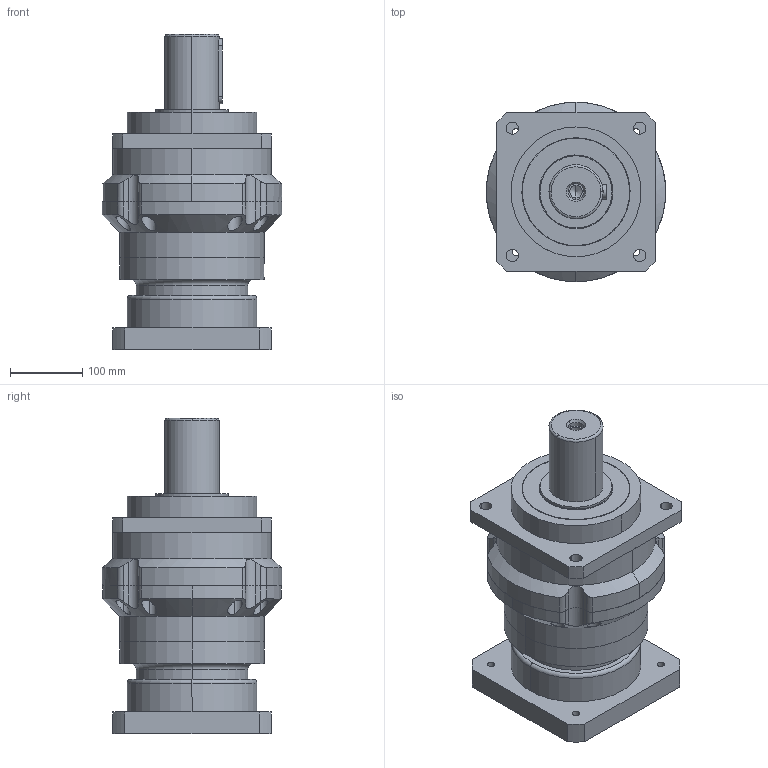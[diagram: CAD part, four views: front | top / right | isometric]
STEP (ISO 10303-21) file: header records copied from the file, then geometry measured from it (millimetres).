
FILE_DESCRIPTION (( 'STEP AP203' ), '1' );
FILE_NAME ('PLM220-L2-55-200-235.STEP', '2022-07-05T07:13:47', ( 'Windows User' ), ( 'P R C' ), 'SwSTEP 2.0', 'SolidWorks 2016', '' );
FILE_SCHEMA (( 'CONFIG_CONTROL_DESIGN' ));
Length unit declared in the file: millimetre
Products named in the file (8): TC100-150-10_TC-34.9-55-7; hexagon socket head cap screw_jis_JIS B 1176 M12 x 35 (35) --N; PLM220-L2-55-200-235; PLM220转架齿圈; PLM220二级齿圈; PLM220媼撰狟裔薊粣ん-55; PLM220梓袧; 邧埴瑩 20x12x90
Assembly tree (7 placements, depth 2):
  PLM220-L2-55-200-235
    PLM220转架齿圈
    PLM220二级齿圈
    PLM220媼撰狟裔薊粣ん-55
    PLM220梓袧
    邧埴瑩 20x12x90
    TC100-150-10_TC-34.9-55-7
    hexagon socket head cap screw_jis_JIS B 1176 M12 x 35 (35) --N
Bounding box: 249 x 249 x 437 mm (x, y, z)
Volume: 10978562.2 mm3; surface area: 748335.6 mm2
Topology: 7 solids, 7 shells, 969 faces, 2533 edges, 1667 vertices
Faces by surface type: plane 522, cylinder 221, bspline 174, cone 28, torus 24
Entity records: 39969 total; most frequent: CARTESIAN_POINT 16130, ORIENTED_EDGE 5046, DIRECTION 4253, EDGE_CURVE 2523, VERTEX_POINT 1667, LINE 1443, VECTOR 1443, AXIS2_PLACEMENT_3D 1405
